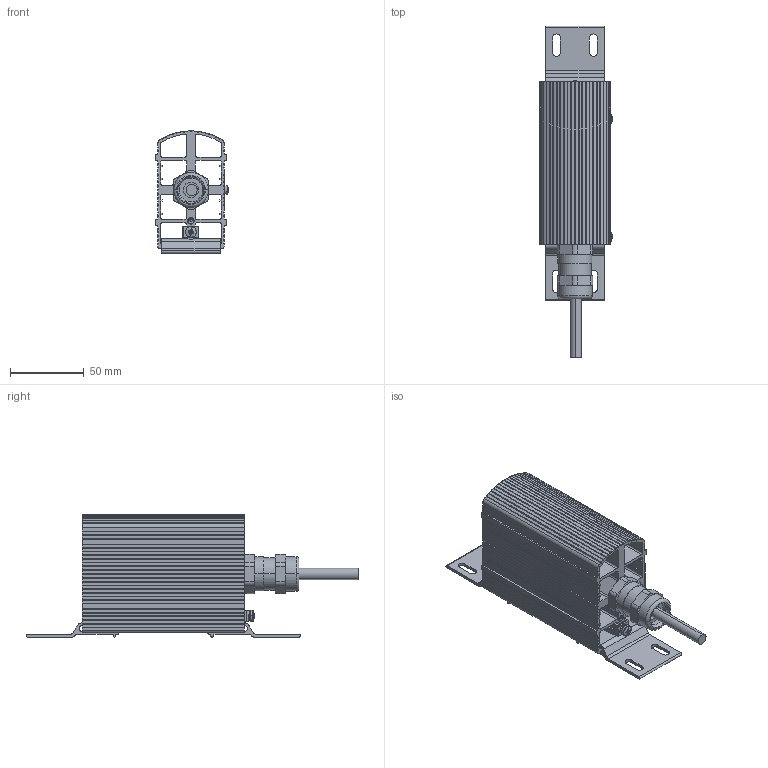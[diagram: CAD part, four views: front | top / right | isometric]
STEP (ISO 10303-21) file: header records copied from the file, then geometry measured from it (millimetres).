
FILE_DESCRIPTION (( 'STEP AP214' ), '1' );
FILE_NAME ('02041.x-1x_Ex-Heizgeraet.STEP', '2017-08-09T09:00:09', ( '' ), ( '' ), 'SwSTEP 2.0', 'SolidWorks 2017', '' );
FILE_SCHEMA (( 'AUTOMOTIVE_DESIGN' ));
Length unit declared in the file: millimetre
Products named in the file (1): 02041.x-1x_Ex-Heizgeraet
Bounding box: 49.42 x 225 x 82.8 mm (x, y, z)
Surface area: 113821.5 mm2 (no closed solid volume)
Topology: 0 solids, 12 shells, 614 faces, 2122 edges, 1446 vertices
Faces by surface type: plane 424, cylinder 139, cone 38, torus 6, sphere 6, bspline 1
Entity records: 29860 total; most frequent: CARTESIAN_POINT 4899, ORIENTED_EDGE 3743, DIRECTION 3607, EDGE_CURVE 2122, VECTOR 1621, LINE 1621, VERTEX_POINT 1446, AXIS2_PLACEMENT_3D 993
